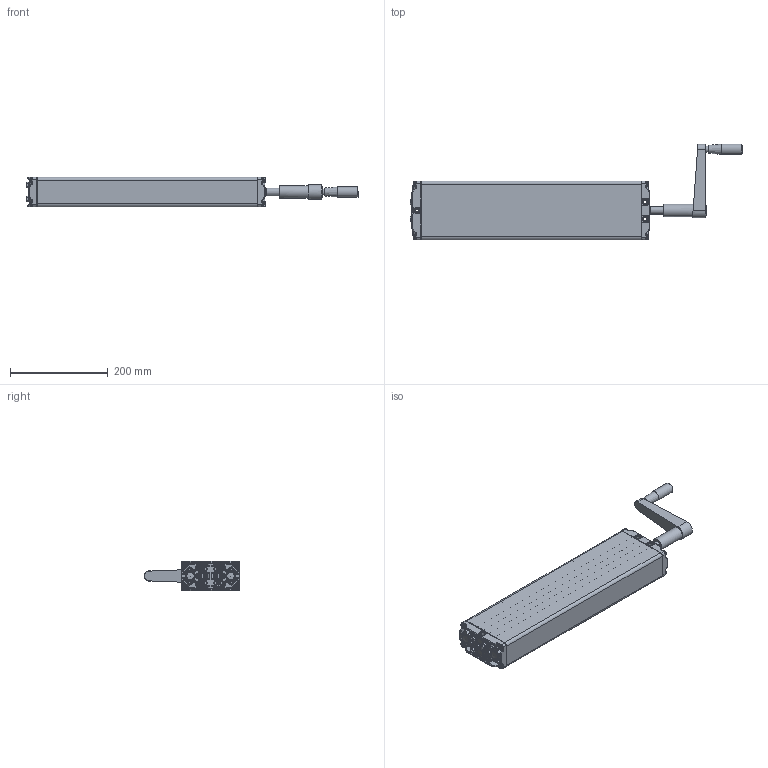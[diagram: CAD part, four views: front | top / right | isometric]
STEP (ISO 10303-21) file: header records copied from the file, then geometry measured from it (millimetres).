
FILE_DESCRIPTION(/* description */ ('Unknown'),/* implementation_level */ '2;1');
FILE_NAME(/* name */ '312.20023 Pumpe PB 3830 W mit Handkurbel',/* time_stamp */ '2016-10-07T16:16:34+02:00',/* author */ ('Unknown'),/* organization */ ('Unknown'),/* preprocessor_version */ 'ST-DEVELOPER v16.7',/* originating_system */ 'DEX',/* authorisation */ $);
FILE_SCHEMA (('AUTOMOTIVE_DESIGN {1 0 10303 214 3 1 1}'));
Products named in the file (22): 102.20023; 115.00033; 125.00045; 115.00008; 142.00021; 125.00021; 113.00005; 128.00001; 125.00052; 126.00013; 125.00053; 127.00014; Handgriff; 142.00013; 125.00143; 115.00140; 126.00006; 122.00040; 119.00043; 126.00005; 142.00057; 142.00110
Assembly tree (32 placements, depth 3):
  102.20023
    115.00033  x3
      125.00045
      115.00008
      142.00021
      125.00021
    113.00005
      128.00001
      125.00052
      126.00013
      125.00053
      127.00014
      Handgriff
    142.00013  x8
    125.00045
    125.00143
    115.00140
      126.00006
      122.00040
    119.00043
    126.00005
    142.00057
    142.00110  x2
Bounding box: 677.72 x 195.5 x 60.3 mm (x, y, z)
Volume: 771684.6 mm3; surface area: 474809.4 mm2
Topology: 32 solids, 32 shells, 2571 faces, 6071 edges, 3497 vertices
Faces by surface type: plane 708, bspline 707, cylinder 578, cone 348, torus 171, sphere 59
Full cylindrical faces by diameter (mm): 3.5 x4, 4 x2, 4.1 x3, 4.2 x5, 4.917 x2, 5 x8, 6.917 x8, 8 x8, 9.8 x8, 10 x4, 10.4 x1, 12.8 x1, 13 x1, 14 x1, 14.4 x4, 15.8 x2, 16 x2, 17 x1, 17.3 x4, 17.9 x8, 18 x3, 19 x1, 20.6 x1, 21 x1, 21.2 x2, 22 x1, 25.5 x1
Entity records: 101371 total; most frequent: CARTESIAN_POINT 55714, ORIENTED_EDGE 8538, DIRECTION 6965, EDGE_CURVE 4269, AXIS2_PLACEMENT_3D 2803, VERTEX_POINT 2631, FACE_BOUND 2120, EDGE_LOOP 2117
